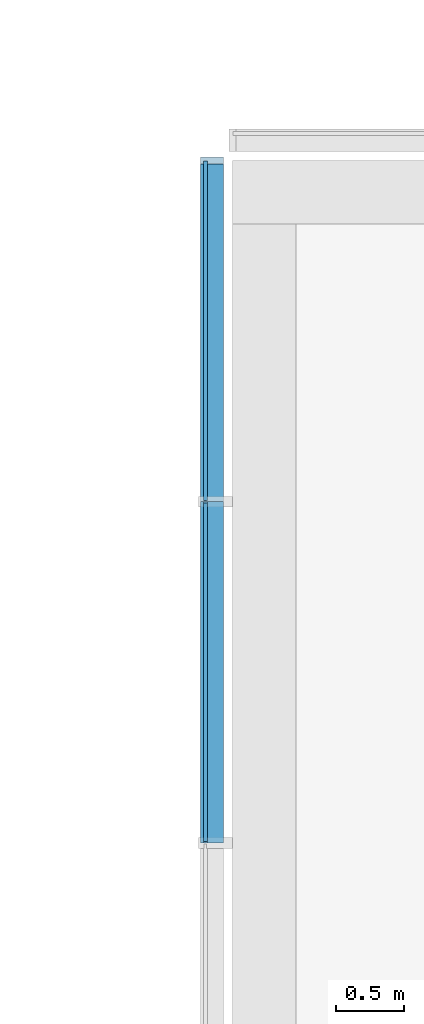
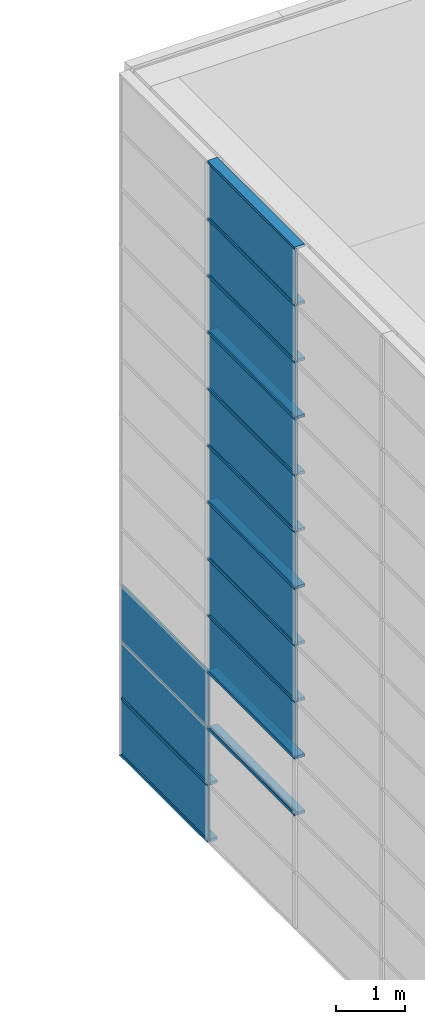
# One storey, part 37 of 105: 28 building element parts, 4 elements without a shape of their own.
"""IFC4 building model written with IfcOpenShell, lengths in millimetres."""

from ifc_helpers import new_model, entity, si_unit, converted_unit, derived_unit, direction, frame, origin_with_axes, place, context, subcontext, project, spatial, triangles, material, element, aggregate, save


model = new_model("IFC4")

# Units and contexts
model_context = context("Model", 3, precision=1e-05, world=origin_with_axes(), true_north=direction((0.0, 1.0)))
body_context = subcontext(model_context, "Body", "Model", "MODEL_VIEW")
ifc_project = project(units=[si_unit("LENGTHUNIT", "METRE", prefix="MILLI"), si_unit("AREAUNIT", "SQUARE_METRE"), si_unit("VOLUMEUNIT", "CUBIC_METRE"), converted_unit("PLANEANGLEUNIT", "DEGREE", entity("IfcLengthMeasure", 0.017453), si_unit("PLANEANGLEUNIT", "RADIAN"), dimensions=[0, 0, 0, 0, 0, 0, 0]), si_unit("SOLIDANGLEUNIT", "STERADIAN"), si_unit("MASSUNIT", "GRAM"), si_unit("TIMEUNIT", "SECOND"), si_unit("THERMODYNAMICTEMPERATUREUNIT", "DEGREE_CELSIUS"), si_unit("LUMINOUSINTENSITYUNIT", "LUMEN"), si_unit("POWERUNIT", "WATT"), derived_unit("THERMALTRANSMITTANCEUNIT", [(si_unit("POWERUNIT", "WATT"), 1), (si_unit("THERMODYNAMICTEMPERATUREUNIT", "KELVIN"), -1), (si_unit("AREAUNIT", "SQUARE_METRE"), -1)])], contexts=[model_context])

# Site, building, storey
site_placement = place(None, origin_with_axes())
site = spatial("IfcSite", under=ifc_project, at=site_placement, Name="Default Site", CompositionType="ELEMENT")
building_placement = place(site_placement, origin_with_axes())
building = spatial("IfcBuilding", under=site, at=building_placement, Name="Default Building", CompositionType="ELEMENT")
storey_placement = place(building_placement, origin_with_axes())
storey = spatial("IfcBuildingStorey", under=building, at=storey_placement, Name="OG - Story", CompositionType="ELEMENT", Elevation=0.0)

# Curtain wall, building element parts
curtain_wall_1_placement = place(storey_placement, origin_with_axes())
curtain_wall_1 = element("IfcCurtainWall", 1, at=curtain_wall_1_placement, inside=storey, Name="Fassade-003", PredefinedType="NOTDEFINED")
ifc_material_1 = material(Name="Normalglas")
building_element_part_1_placement = place(curtain_wall_1_placement, frame((31551.391327, -51326.104944, 0.0), z_axis=(0.0, 0.0, 1.0), x_axis=(1.0, 0.0, 0.0)))
building_element_part_1 = element("IfcBuildingElementPart", 2, at=building_element_part_1_placement, material=ifc_material_1, Name="Normalglas", PredefinedType="NOTDEFINED", context=body_context, shape_type="Tessellation", body=[
    triangles([(15.0, 46731.842, 995.0), (-14.999, 46731.842, 995.0), (-14.999, 44220.526, 995.0), (15.0, 44220.526, 995.0), (15.0, 46731.842, 5.0), (-14.999, 46731.842, 5.0), (-14.999, 44220.526, 5.0), (15.0, 44220.526, 5.0)], [[1, 2, 3], [1, 3, 4], [5, 6, 2], [5, 2, 1], [2, 6, 7], [2, 7, 3], [4, 3, 7], [4, 7, 8], [1, 4, 8], [1, 8, 5], [8, 7, 6], [8, 6, 5]], closed=False),
])
building_element_part_2_placement = place(curtain_wall_1_placement, frame((31551.391327, -51326.104944, 0.0), z_axis=(0.0, 0.0, 1.0), x_axis=(1.0, 0.0, 0.0)))
building_element_part_2 = element("IfcBuildingElementPart", 3, at=building_element_part_2_placement, material=ifc_material_1, Name="Normalglas", PredefinedType="NOTDEFINED", context=body_context, shape_type="Tessellation", body=[
    triangles([(15.0, 46731.842, 1995.0), (-14.999, 46731.842, 1995.0), (-14.999, 44220.526, 1995.0), (15.0, 44220.526, 1995.0), (15.0, 46731.842, 1005.0), (-14.999, 46731.842, 1005.0), (-14.999, 44220.526, 1005.0), (15.0, 44220.526, 1005.0)], [[1, 2, 3], [1, 3, 4], [5, 6, 2], [5, 2, 1], [2, 6, 7], [2, 7, 3], [4, 3, 7], [4, 7, 8], [1, 4, 8], [1, 8, 5], [8, 7, 6], [8, 6, 5]], closed=False),
])
building_element_part_3_placement = place(curtain_wall_1_placement, frame((31551.391327, -51326.104944, 0.0), z_axis=(0.0, 0.0, 1.0), x_axis=(1.0, 0.0, 0.0)))
building_element_part_3 = element("IfcBuildingElementPart", 4, at=building_element_part_3_placement, material=ifc_material_1, Name="Normalglas", PredefinedType="NOTDEFINED", context=body_context, shape_type="Tessellation", body=[
    triangles([(15.0, 46731.842, 2995.0), (-14.999, 46731.842, 2995.0), (-14.999, 44220.526, 2995.0), (15.0, 44220.526, 2995.0), (15.0, 46731.842, 2005.0), (-14.999, 46731.842, 2005.0), (-14.999, 44220.526, 2005.0), (15.0, 44220.526, 2005.0)], [[1, 2, 3], [1, 3, 4], [5, 6, 2], [5, 2, 1], [2, 6, 7], [2, 7, 3], [4, 3, 7], [4, 7, 8], [1, 4, 8], [1, 8, 5], [8, 7, 6], [8, 6, 5]], closed=False),
])
ifc_material_2 = material(Name="Blech")
building_element_part_4_placement = place(curtain_wall_1_placement, frame((31551.391327, -51326.104944, 0.0), z_axis=(0.0, 0.0, 1.0), x_axis=(1.0, 0.0, 0.0)))
building_element_part_4 = element("IfcBuildingElementPart", 5, at=building_element_part_4_placement, material=ifc_material_2, Name="Blech", PredefinedType="NOTDEFINED", context=body_context, shape_type="Tessellation", body=[
    triangles([(15.0, 46711.842, 25.0), (133.0, 46711.842, 25.0), (15.0, 46731.842, 5.0), (133.0, 46761.842, -24.999), (-14.999, 46731.842, 5.0), (-34.999, 46761.842, -24.999), (-34.999, 46711.842, 25.0), (-14.999, 46711.842, 25.0), (15.0, 44210.526, 5.0), (15.0, 44210.526, 25.0), (133.0, 44210.526, 25.0), (133.0, 44210.526, -24.999), (-34.999, 44210.526, -24.999), (-34.999, 44210.526, 25.0), (-14.999, 44210.526, 25.0), (-14.999, 44210.526, 5.0)], [[1, 2, 3], [3, 2, 4], [3, 4, 5], [5, 4, 6], [5, 6, 7], [5, 7, 8], [3, 9, 10], [3, 10, 1], [10, 11, 2], [10, 2, 1], [11, 12, 4], [11, 4, 2], [12, 13, 6], [12, 6, 4], [13, 14, 7], [13, 7, 6], [8, 7, 14], [8, 14, 15], [15, 16, 5], [15, 5, 8], [5, 16, 9], [5, 9, 3], [16, 9, 12], [16, 12, 13], [16, 13, 14], [16, 14, 15], [11, 12, 9], [11, 9, 10]], closed=False),
])
building_element_part_5_placement = place(curtain_wall_1_placement, frame((31551.391327, -51326.104944, 0.0), z_axis=(0.0, 0.0, 1.0), x_axis=(1.0, 0.0, 0.0)))
building_element_part_5 = element("IfcBuildingElementPart", 6, at=building_element_part_5_placement, material=ifc_material_2, Name="Blech", PredefinedType="NOTDEFINED", context=body_context, shape_type="Tessellation", body=[
    triangles([(-14.999, 46711.842, 1025.0), (-34.999, 46711.842, 1025.0), (-14.999, 46711.842, 1005.0), (-14.999, 46711.842, 995.0), (15.0, 46711.842, 1005.0), (133.0, 46711.842, 1025.0), (15.0, 46711.842, 1025.0), (-34.999, 46711.842, 975.0), (-14.999, 46711.842, 975.0), (15.0, 46711.842, 995.0), (15.0, 46711.842, 975.0), (133.0, 46711.842, 975.0), (15.0, 44210.526, 995.0), (-14.999, 44210.526, 995.0), (-14.999, 44210.526, 975.0), (-34.999, 44210.526, 975.0), (-34.999, 44210.526, 1025.0), (-14.999, 44210.526, 1025.0), (-14.999, 44210.526, 1005.0), (15.0, 44210.526, 1005.0), (15.0, 44210.526, 1025.0), (133.0, 44210.526, 1025.0), (133.0, 44210.526, 975.0), (15.0, 44210.526, 975.0)], [[1, 2, 3], [3, 2, 4], [3, 4, 5], [5, 4, 6], [5, 6, 7], [8, 9, 4], [8, 4, 2], [6, 4, 10], [6, 10, 11], [6, 11, 12], [10, 13, 14], [10, 14, 4], [4, 14, 15], [4, 15, 9], [15, 16, 8], [15, 8, 9], [8, 16, 17], [8, 17, 2], [18, 1, 2], [18, 2, 17], [1, 18, 19], [1, 19, 3], [5, 3, 19], [5, 19, 20], [7, 5, 20], [7, 20, 21], [7, 21, 22], [7, 22, 6], [6, 22, 23], [6, 23, 12], [11, 12, 23], [11, 23, 24], [11, 24, 13], [11, 13, 10], [21, 22, 20], [20, 22, 13], [20, 13, 19], [19, 13, 14], [19, 14, 17], [17, 14, 15], [17, 15, 16], [23, 24, 13], [23, 13, 22], [19, 17, 18]], closed=False),
])
building_element_part_6_placement = place(curtain_wall_1_placement, frame((31551.391327, -51326.104944, 0.0), z_axis=(0.0, 0.0, 1.0), x_axis=(1.0, 0.0, 0.0)))
building_element_part_6 = element("IfcBuildingElementPart", 7, at=building_element_part_6_placement, material=ifc_material_2, Name="Blech", PredefinedType="NOTDEFINED", context=body_context, shape_type="Tessellation", body=[
    triangles([(-14.999, 44210.526, 2025.0), (-34.999, 44210.526, 2025.0), (-14.999, 44210.526, 2005.0), (-14.999, 44210.526, 1995.0), (15.0, 44210.526, 2005.0), (133.0, 44210.526, 2025.0), (15.0, 44210.526, 2025.0), (-34.999, 44210.526, 1975.0), (-14.999, 44210.526, 1975.0), (15.0, 44210.526, 1995.0), (15.0, 44210.526, 1975.0), (133.0, 44210.526, 1975.0), (15.0, 41684.211, 1995.0), (-14.999, 41684.211, 1995.0), (-14.999, 41684.211, 1975.0), (-34.999, 41684.211, 1975.0), (-34.999, 41684.211, 2025.0), (-14.999, 41684.211, 2025.0), (-14.999, 41684.211, 2005.0), (15.0, 41684.211, 2005.0), (15.0, 41684.211, 2025.0), (133.0, 41684.211, 2025.0), (133.0, 41684.211, 1975.0), (15.0, 41684.211, 1975.0)], [[1, 2, 3], [3, 2, 4], [3, 4, 5], [5, 4, 6], [5, 6, 7], [8, 9, 4], [8, 4, 2], [6, 4, 10], [6, 10, 11], [6, 11, 12], [10, 13, 14], [10, 14, 4], [4, 14, 15], [4, 15, 9], [15, 16, 8], [15, 8, 9], [8, 16, 17], [8, 17, 2], [18, 1, 2], [18, 2, 17], [1, 18, 19], [1, 19, 3], [5, 3, 19], [5, 19, 20], [7, 5, 20], [7, 20, 21], [7, 21, 22], [7, 22, 6], [6, 22, 23], [6, 23, 12], [11, 12, 23], [11, 23, 24], [11, 24, 13], [11, 13, 10], [21, 22, 20], [20, 22, 13], [20, 13, 19], [19, 13, 14], [19, 14, 17], [17, 14, 15], [17, 15, 16], [23, 24, 13], [23, 13, 22], [19, 17, 18]], closed=False),
])
building_element_part_7_placement = place(curtain_wall_1_placement, frame((31551.391327, -51326.104944, 0.0), z_axis=(0.0, 0.0, 1.0), x_axis=(1.0, 0.0, 0.0)))
building_element_part_7 = element("IfcBuildingElementPart", 8, at=building_element_part_7_placement, material=ifc_material_2, Name="Blech", PredefinedType="NOTDEFINED", context=body_context, shape_type="Tessellation", body=[
    triangles([(-14.999, 44210.526, 2995.0), (15.0, 44210.526, 2995.0), (133.0, 44210.526, 3025.0), (-34.999, 44210.526, 3025.0), (-34.999, 44210.526, 2975.0), (-14.999, 44210.526, 2975.0), (15.0, 44210.526, 2975.0), (133.0, 44210.526, 2975.0), (15.0, 41684.211, 2995.0), (-14.999, 41684.211, 2995.0), (-14.999, 41684.211, 2975.0), (-34.999, 41684.211, 2975.0), (-34.999, 41684.211, 3025.0), (133.0, 41684.211, 3025.0), (133.0, 41684.211, 2975.0), (15.0, 41684.211, 2975.0)], [[1, 2, 3], [1, 3, 4], [1, 4, 5], [1, 5, 6], [7, 8, 3], [7, 3, 2], [1, 2, 9], [1, 9, 10], [11, 6, 1], [11, 1, 10], [6, 11, 12], [6, 12, 5], [13, 4, 5], [13, 5, 12], [14, 3, 4], [14, 4, 13], [15, 8, 3], [15, 3, 14], [16, 7, 8], [16, 8, 15], [2, 7, 16], [2, 16, 9], [10, 9, 14], [10, 14, 13], [10, 13, 12], [10, 12, 11], [16, 15, 14], [16, 14, 9]], closed=False),
])
aggregate(curtain_wall_1, [building_element_part_1, building_element_part_2, building_element_part_3, building_element_part_4, building_element_part_5, building_element_part_6, building_element_part_7])

curtain_wall_2_placement = place(storey_placement, origin_with_axes())
curtain_wall_2 = element("IfcCurtainWall", 9, at=curtain_wall_2_placement, inside=storey, Name="Fassade-003", PredefinedType="NOTDEFINED")
building_element_part_8_placement = place(curtain_wall_2_placement, frame((31551.391327, -51326.104944, 3000.0), z_axis=(0.0, 0.0, 1.0), x_axis=(1.0, 0.0, 0.0)))
building_element_part_8 = element("IfcBuildingElementPart", 10, at=building_element_part_8_placement, material=ifc_material_1, Name="Normalglas", PredefinedType="NOTDEFINED", context=body_context, shape_type="Tessellation", body=[
    triangles([(15.0, 44200.526, 995.0), (-14.999, 44200.526, 995.0), (-14.999, 41694.211, 995.0), (15.0, 41694.211, 995.0), (15.0, 44200.526, 5.0), (-14.999, 44200.526, 5.0), (-14.999, 41694.211, 5.0), (15.0, 41694.211, 5.0)], [[1, 2, 3], [1, 3, 4], [5, 6, 2], [5, 2, 1], [2, 6, 7], [2, 7, 3], [4, 3, 7], [4, 7, 8], [1, 4, 8], [1, 8, 5], [8, 7, 6], [8, 6, 5]], closed=False),
])
building_element_part_9_placement = place(curtain_wall_2_placement, frame((31551.391327, -51326.104944, 3000.0), z_axis=(0.0, 0.0, 1.0), x_axis=(1.0, 0.0, 0.0)))
building_element_part_9 = element("IfcBuildingElementPart", 11, at=building_element_part_9_placement, material=ifc_material_1, Name="Normalglas", PredefinedType="NOTDEFINED", context=body_context, shape_type="Tessellation", body=[
    triangles([(15.0, 44200.526, 1995.0), (-14.999, 44200.526, 1995.0), (-14.999, 41694.211, 1995.0), (15.0, 41694.211, 1995.0), (15.0, 44200.526, 1005.0), (-14.999, 44200.526, 1005.0), (-14.999, 41694.211, 1005.0), (15.0, 41694.211, 1005.0)], [[1, 2, 3], [1, 3, 4], [5, 6, 2], [5, 2, 1], [2, 6, 7], [2, 7, 3], [4, 3, 7], [4, 7, 8], [1, 4, 8], [1, 8, 5], [8, 7, 6], [8, 6, 5]], closed=False),
])
building_element_part_10_placement = place(curtain_wall_2_placement, frame((31551.391327, -51326.104944, 3000.0), z_axis=(0.0, 0.0, 1.0), x_axis=(1.0, 0.0, 0.0)))
building_element_part_10 = element("IfcBuildingElementPart", 12, at=building_element_part_10_placement, material=ifc_material_1, Name="Normalglas", PredefinedType="NOTDEFINED", context=body_context, shape_type="Tessellation", body=[
    triangles([(15.0, 44200.526, 2995.0), (-14.999, 44200.526, 2995.0), (-14.999, 41694.211, 2995.0), (15.0, 41694.211, 2995.0), (15.0, 44200.526, 2005.0), (-14.999, 44200.526, 2005.0), (-14.999, 41694.211, 2005.0), (15.0, 41694.211, 2005.0)], [[1, 2, 3], [1, 3, 4], [5, 6, 2], [5, 2, 1], [2, 6, 7], [2, 7, 3], [4, 3, 7], [4, 7, 8], [1, 4, 8], [1, 8, 5], [8, 7, 6], [8, 6, 5]], closed=False),
])
building_element_part_11_placement = place(curtain_wall_2_placement, frame((31551.391327, -51326.104944, 3000.0), z_axis=(0.0, 0.0, 1.0), x_axis=(1.0, 0.0, 0.0)))
building_element_part_11 = element("IfcBuildingElementPart", 13, at=building_element_part_11_placement, material=ifc_material_2, Name="Blech", PredefinedType="NOTDEFINED", context=body_context, shape_type="Tessellation", body=[
    triangles([(15.0, 44210.526, 25.0), (133.0, 44210.526, 25.0), (15.0, 44210.526, 5.0), (133.0, 44210.526, -24.999), (-14.999, 44210.526, 5.0), (-34.999, 44210.526, -24.999), (-34.999, 44210.526, 25.0), (-14.999, 44210.526, 25.0), (15.0, 41684.211, 5.0), (15.0, 41684.211, 25.0), (133.0, 41684.211, 25.0), (133.0, 41684.211, -24.999), (-34.999, 41684.211, -24.999), (-34.999, 41684.211, 25.0), (-14.999, 41684.211, 25.0), (-14.999, 41684.211, 5.0)], [[1, 2, 3], [3, 2, 4], [3, 4, 5], [5, 4, 6], [5, 6, 7], [5, 7, 8], [3, 9, 10], [3, 10, 1], [10, 11, 2], [10, 2, 1], [11, 12, 4], [11, 4, 2], [12, 13, 6], [12, 6, 4], [13, 14, 7], [13, 7, 6], [8, 7, 14], [8, 14, 15], [15, 16, 5], [15, 5, 8], [5, 16, 9], [5, 9, 3], [16, 9, 12], [16, 12, 13], [16, 13, 14], [16, 14, 15], [11, 12, 9], [11, 9, 10]], closed=False),
])
building_element_part_12_placement = place(curtain_wall_2_placement, frame((31551.391327, -51326.104944, 3000.0), z_axis=(0.0, 0.0, 1.0), x_axis=(1.0, 0.0, 0.0)))
building_element_part_12 = element("IfcBuildingElementPart", 14, at=building_element_part_12_placement, material=ifc_material_2, Name="Blech", PredefinedType="NOTDEFINED", context=body_context, shape_type="Tessellation", body=[
    triangles([(-14.999, 44210.526, 1025.0), (-34.999, 44210.526, 1025.0), (-14.999, 44210.526, 1005.0), (-14.999, 44210.526, 995.0), (15.0, 44210.526, 1005.0), (133.0, 44210.526, 1025.0), (15.0, 44210.526, 1025.0), (-34.999, 44210.526, 975.0), (-14.999, 44210.526, 975.0), (15.0, 44210.526, 995.0), (15.0, 44210.526, 975.0), (133.0, 44210.526, 975.0), (15.0, 41684.211, 995.0), (-14.999, 41684.211, 995.0), (-14.999, 41684.211, 975.0), (-34.999, 41684.211, 975.0), (-34.999, 41684.211, 1025.0), (-14.999, 41684.211, 1025.0), (-14.999, 41684.211, 1005.0), (15.0, 41684.211, 1005.0), (15.0, 41684.211, 1025.0), (133.0, 41684.211, 1025.0), (133.0, 41684.211, 975.0), (15.0, 41684.211, 975.0)], [[1, 2, 3], [3, 2, 4], [3, 4, 5], [5, 4, 6], [5, 6, 7], [8, 9, 4], [8, 4, 2], [6, 4, 10], [6, 10, 11], [6, 11, 12], [10, 13, 14], [10, 14, 4], [4, 14, 15], [4, 15, 9], [15, 16, 8], [15, 8, 9], [8, 16, 17], [8, 17, 2], [18, 1, 2], [18, 2, 17], [1, 18, 19], [1, 19, 3], [5, 3, 19], [5, 19, 20], [7, 5, 20], [7, 20, 21], [7, 21, 22], [7, 22, 6], [6, 22, 23], [6, 23, 12], [11, 12, 23], [11, 23, 24], [11, 24, 13], [11, 13, 10], [21, 22, 20], [20, 22, 13], [20, 13, 19], [19, 13, 14], [19, 14, 17], [17, 14, 15], [17, 15, 16], [23, 24, 13], [23, 13, 22], [19, 17, 18]], closed=False),
])
building_element_part_13_placement = place(curtain_wall_2_placement, frame((31551.391327, -51326.104944, 3000.0), z_axis=(0.0, 0.0, 1.0), x_axis=(1.0, 0.0, 0.0)))
building_element_part_13 = element("IfcBuildingElementPart", 15, at=building_element_part_13_placement, material=ifc_material_2, Name="Blech", PredefinedType="NOTDEFINED", context=body_context, shape_type="Tessellation", body=[
    triangles([(-14.999, 44210.526, 2025.0), (-34.999, 44210.526, 2025.0), (-14.999, 44210.526, 2005.0), (-14.999, 44210.526, 1995.0), (15.0, 44210.526, 2005.0), (133.0, 44210.526, 2025.0), (15.0, 44210.526, 2025.0), (-34.999, 44210.526, 1975.0), (-14.999, 44210.526, 1975.0), (15.0, 44210.526, 1995.0), (15.0, 44210.526, 1975.0), (133.0, 44210.526, 1975.0), (15.0, 41684.211, 1995.0), (-14.999, 41684.211, 1995.0), (-14.999, 41684.211, 1975.0), (-34.999, 41684.211, 1975.0), (-34.999, 41684.211, 2025.0), (-14.999, 41684.211, 2025.0), (-14.999, 41684.211, 2005.0), (15.0, 41684.211, 2005.0), (15.0, 41684.211, 2025.0), (133.0, 41684.211, 2025.0), (133.0, 41684.211, 1975.0), (15.0, 41684.211, 1975.0)], [[1, 2, 3], [3, 2, 4], [3, 4, 5], [5, 4, 6], [5, 6, 7], [8, 9, 4], [8, 4, 2], [6, 4, 10], [6, 10, 11], [6, 11, 12], [10, 13, 14], [10, 14, 4], [4, 14, 15], [4, 15, 9], [15, 16, 8], [15, 8, 9], [8, 16, 17], [8, 17, 2], [18, 1, 2], [18, 2, 17], [1, 18, 19], [1, 19, 3], [5, 3, 19], [5, 19, 20], [7, 5, 20], [7, 20, 21], [7, 21, 22], [7, 22, 6], [6, 22, 23], [6, 23, 12], [11, 12, 23], [11, 23, 24], [11, 24, 13], [11, 13, 10], [21, 22, 20], [20, 22, 13], [20, 13, 19], [19, 13, 14], [19, 14, 17], [17, 14, 15], [17, 15, 16], [23, 24, 13], [23, 13, 22], [19, 17, 18]], closed=False),
])
building_element_part_14_placement = place(curtain_wall_2_placement, frame((31551.391327, -51326.104944, 3000.0), z_axis=(0.0, 0.0, 1.0), x_axis=(1.0, 0.0, 0.0)))
building_element_part_14 = element("IfcBuildingElementPart", 16, at=building_element_part_14_placement, material=ifc_material_2, Name="Blech", PredefinedType="NOTDEFINED", context=body_context, shape_type="Tessellation", body=[
    triangles([(-14.999, 44210.526, 2995.0), (15.0, 44210.526, 2995.0), (133.0, 44210.526, 3025.0), (-34.999, 44210.526, 3025.0), (-34.999, 44210.526, 2975.0), (-14.999, 44210.526, 2975.0), (15.0, 44210.526, 2975.0), (133.0, 44210.526, 2975.0), (15.0, 41684.211, 2995.0), (-14.999, 41684.211, 2995.0), (-14.999, 41684.211, 2975.0), (-34.999, 41684.211, 2975.0), (-34.999, 41684.211, 3025.0), (133.0, 41684.211, 3025.0), (133.0, 41684.211, 2975.0), (15.0, 41684.211, 2975.0)], [[1, 2, 3], [1, 3, 4], [1, 4, 5], [1, 5, 6], [7, 8, 3], [7, 3, 2], [1, 2, 9], [1, 9, 10], [11, 6, 1], [11, 1, 10], [6, 11, 12], [6, 12, 5], [13, 4, 5], [13, 5, 12], [14, 3, 4], [14, 4, 13], [15, 8, 3], [15, 3, 14], [16, 7, 8], [16, 8, 15], [2, 7, 16], [2, 16, 9], [10, 9, 14], [10, 14, 13], [10, 13, 12], [10, 12, 11], [16, 15, 14], [16, 14, 9]], closed=False),
])
aggregate(curtain_wall_2, [building_element_part_8, building_element_part_9, building_element_part_10, building_element_part_11, building_element_part_12, building_element_part_13, building_element_part_14])

curtain_wall_3_placement = place(storey_placement, origin_with_axes())
curtain_wall_3 = element("IfcCurtainWall", 17, at=curtain_wall_3_placement, inside=storey, Name="Fassade-003", PredefinedType="NOTDEFINED")
building_element_part_15_placement = place(curtain_wall_3_placement, frame((31551.391327, -51326.104944, 6000.0), z_axis=(0.0, 0.0, 1.0), x_axis=(1.0, 0.0, 0.0)))
building_element_part_15 = element("IfcBuildingElementPart", 18, at=building_element_part_15_placement, material=ifc_material_1, Name="Normalglas", PredefinedType="NOTDEFINED", context=body_context, shape_type="Tessellation", body=[
    triangles([(15.0, 44200.526, 995.0), (-14.999, 44200.526, 995.0), (-14.999, 41694.211, 995.0), (15.0, 41694.211, 995.0), (15.0, 44200.526, 5.0), (-14.999, 44200.526, 5.0), (-14.999, 41694.211, 5.0), (15.0, 41694.211, 5.0)], [[1, 2, 3], [1, 3, 4], [5, 6, 2], [5, 2, 1], [2, 6, 7], [2, 7, 3], [4, 3, 7], [4, 7, 8], [1, 4, 8], [1, 8, 5], [8, 7, 6], [8, 6, 5]], closed=False),
])
building_element_part_16_placement = place(curtain_wall_3_placement, frame((31551.391327, -51326.104944, 6000.0), z_axis=(0.0, 0.0, 1.0), x_axis=(1.0, 0.0, 0.0)))
building_element_part_16 = element("IfcBuildingElementPart", 19, at=building_element_part_16_placement, material=ifc_material_1, Name="Normalglas", PredefinedType="NOTDEFINED", context=body_context, shape_type="Tessellation", body=[
    triangles([(15.0, 44200.526, 1995.0), (-14.999, 44200.526, 1995.0), (-14.999, 41694.211, 1995.0), (15.0, 41694.211, 1995.0), (15.0, 44200.526, 1005.0), (-14.999, 44200.526, 1005.0), (-14.999, 41694.211, 1005.0), (15.0, 41694.211, 1005.0)], [[1, 2, 3], [1, 3, 4], [5, 6, 2], [5, 2, 1], [2, 6, 7], [2, 7, 3], [4, 3, 7], [4, 7, 8], [1, 4, 8], [1, 8, 5], [8, 7, 6], [8, 6, 5]], closed=False),
])
building_element_part_17_placement = place(curtain_wall_3_placement, frame((31551.391327, -51326.104944, 6000.0), z_axis=(0.0, 0.0, 1.0), x_axis=(1.0, 0.0, 0.0)))
building_element_part_17 = element("IfcBuildingElementPart", 20, at=building_element_part_17_placement, material=ifc_material_1, Name="Normalglas", PredefinedType="NOTDEFINED", context=body_context, shape_type="Tessellation", body=[
    triangles([(15.0, 44200.526, 2995.0), (-14.999, 44200.526, 2995.0), (-14.999, 41694.211, 2995.0), (15.0, 41694.211, 2995.0), (15.0, 44200.526, 2005.0), (-14.999, 44200.526, 2005.0), (-14.999, 41694.211, 2005.0), (15.0, 41694.211, 2005.0)], [[1, 2, 3], [1, 3, 4], [5, 6, 2], [5, 2, 1], [2, 6, 7], [2, 7, 3], [4, 3, 7], [4, 7, 8], [1, 4, 8], [1, 8, 5], [8, 7, 6], [8, 6, 5]], closed=False),
])
building_element_part_18_placement = place(curtain_wall_3_placement, frame((31551.391327, -51326.104944, 6000.0), z_axis=(0.0, 0.0, 1.0), x_axis=(1.0, 0.0, 0.0)))
building_element_part_18 = element("IfcBuildingElementPart", 21, at=building_element_part_18_placement, material=ifc_material_2, Name="Blech", PredefinedType="NOTDEFINED", context=body_context, shape_type="Tessellation", body=[
    triangles([(15.0, 44210.526, 25.0), (133.0, 44210.526, 25.0), (15.0, 44210.526, 5.0), (133.0, 44210.526, -24.999), (-14.999, 44210.526, 5.0), (-34.999, 44210.526, -24.999), (-34.999, 44210.526, 25.0), (-14.999, 44210.526, 25.0), (15.0, 41684.211, 5.0), (15.0, 41684.211, 25.0), (133.0, 41684.211, 25.0), (133.0, 41684.211, -24.999), (-34.999, 41684.211, -24.999), (-34.999, 41684.211, 25.0), (-14.999, 41684.211, 25.0), (-14.999, 41684.211, 5.0)], [[1, 2, 3], [3, 2, 4], [3, 4, 5], [5, 4, 6], [5, 6, 7], [5, 7, 8], [3, 9, 10], [3, 10, 1], [10, 11, 2], [10, 2, 1], [11, 12, 4], [11, 4, 2], [12, 13, 6], [12, 6, 4], [13, 14, 7], [13, 7, 6], [8, 7, 14], [8, 14, 15], [15, 16, 5], [15, 5, 8], [5, 16, 9], [5, 9, 3], [16, 9, 12], [16, 12, 13], [16, 13, 14], [16, 14, 15], [11, 12, 9], [11, 9, 10]], closed=False),
])
building_element_part_19_placement = place(curtain_wall_3_placement, frame((31551.391327, -51326.104944, 6000.0), z_axis=(0.0, 0.0, 1.0), x_axis=(1.0, 0.0, 0.0)))
building_element_part_19 = element("IfcBuildingElementPart", 22, at=building_element_part_19_placement, material=ifc_material_2, Name="Blech", PredefinedType="NOTDEFINED", context=body_context, shape_type="Tessellation", body=[
    triangles([(-14.999, 44210.526, 1025.0), (-34.999, 44210.526, 1025.0), (-14.999, 44210.526, 1005.0), (-14.999, 44210.526, 995.0), (15.0, 44210.526, 1005.0), (133.0, 44210.526, 1025.0), (15.0, 44210.526, 1025.0), (-34.999, 44210.526, 975.0), (-14.999, 44210.526, 975.0), (15.0, 44210.526, 995.0), (15.0, 44210.526, 975.0), (133.0, 44210.526, 975.0), (15.0, 41684.211, 995.0), (-14.999, 41684.211, 995.0), (-14.999, 41684.211, 975.0), (-34.999, 41684.211, 975.0), (-34.999, 41684.211, 1025.0), (-14.999, 41684.211, 1025.0), (-14.999, 41684.211, 1005.0), (15.0, 41684.211, 1005.0), (15.0, 41684.211, 1025.0), (133.0, 41684.211, 1025.0), (133.0, 41684.211, 975.0), (15.0, 41684.211, 975.0)], [[1, 2, 3], [3, 2, 4], [3, 4, 5], [5, 4, 6], [5, 6, 7], [8, 9, 4], [8, 4, 2], [6, 4, 10], [6, 10, 11], [6, 11, 12], [10, 13, 14], [10, 14, 4], [4, 14, 15], [4, 15, 9], [15, 16, 8], [15, 8, 9], [8, 16, 17], [8, 17, 2], [18, 1, 2], [18, 2, 17], [1, 18, 19], [1, 19, 3], [5, 3, 19], [5, 19, 20], [7, 5, 20], [7, 20, 21], [7, 21, 22], [7, 22, 6], [6, 22, 23], [6, 23, 12], [11, 12, 23], [11, 23, 24], [11, 24, 13], [11, 13, 10], [21, 22, 20], [20, 22, 13], [20, 13, 19], [19, 13, 14], [19, 14, 17], [17, 14, 15], [17, 15, 16], [23, 24, 13], [23, 13, 22], [19, 17, 18]], closed=False),
])
building_element_part_20_placement = place(curtain_wall_3_placement, frame((31551.391327, -51326.104944, 6000.0), z_axis=(0.0, 0.0, 1.0), x_axis=(1.0, 0.0, 0.0)))
building_element_part_20 = element("IfcBuildingElementPart", 23, at=building_element_part_20_placement, material=ifc_material_2, Name="Blech", PredefinedType="NOTDEFINED", context=body_context, shape_type="Tessellation", body=[
    triangles([(-14.999, 44210.526, 2025.0), (-34.999, 44210.526, 2025.0), (-14.999, 44210.526, 2005.0), (-14.999, 44210.526, 1995.0), (15.0, 44210.526, 2005.0), (133.0, 44210.526, 2025.0), (15.0, 44210.526, 2025.0), (-34.999, 44210.526, 1975.0), (-14.999, 44210.526, 1975.0), (15.0, 44210.526, 1995.0), (15.0, 44210.526, 1975.0), (133.0, 44210.526, 1975.0), (15.0, 41684.211, 1995.0), (-14.999, 41684.211, 1995.0), (-14.999, 41684.211, 1975.0), (-34.999, 41684.211, 1975.0), (-34.999, 41684.211, 2025.0), (-14.999, 41684.211, 2025.0), (-14.999, 41684.211, 2005.0), (15.0, 41684.211, 2005.0), (15.0, 41684.211, 2025.0), (133.0, 41684.211, 2025.0), (133.0, 41684.211, 1975.0), (15.0, 41684.211, 1975.0)], [[1, 2, 3], [3, 2, 4], [3, 4, 5], [5, 4, 6], [5, 6, 7], [8, 9, 4], [8, 4, 2], [6, 4, 10], [6, 10, 11], [6, 11, 12], [10, 13, 14], [10, 14, 4], [4, 14, 15], [4, 15, 9], [15, 16, 8], [15, 8, 9], [8, 16, 17], [8, 17, 2], [18, 1, 2], [18, 2, 17], [1, 18, 19], [1, 19, 3], [5, 3, 19], [5, 19, 20], [7, 5, 20], [7, 20, 21], [7, 21, 22], [7, 22, 6], [6, 22, 23], [6, 23, 12], [11, 12, 23], [11, 23, 24], [11, 24, 13], [11, 13, 10], [21, 22, 20], [20, 22, 13], [20, 13, 19], [19, 13, 14], [19, 14, 17], [17, 14, 15], [17, 15, 16], [23, 24, 13], [23, 13, 22], [19, 17, 18]], closed=False),
])
building_element_part_21_placement = place(curtain_wall_3_placement, frame((31551.391327, -51326.104944, 6000.0), z_axis=(0.0, 0.0, 1.0), x_axis=(1.0, 0.0, 0.0)))
building_element_part_21 = element("IfcBuildingElementPart", 24, at=building_element_part_21_placement, material=ifc_material_2, Name="Blech", PredefinedType="NOTDEFINED", context=body_context, shape_type="Tessellation", body=[
    triangles([(-14.999, 44210.526, 2995.0), (15.0, 44210.526, 2995.0), (133.0, 44210.526, 3025.0), (-34.999, 44210.526, 3025.0), (-34.999, 44210.526, 2975.0), (-14.999, 44210.526, 2975.0), (15.0, 44210.526, 2975.0), (133.0, 44210.526, 2975.0), (15.0, 41684.211, 2995.0), (-14.999, 41684.211, 2995.0), (-14.999, 41684.211, 2975.0), (-34.999, 41684.211, 2975.0), (-34.999, 41684.211, 3025.0), (133.0, 41684.211, 3025.0), (133.0, 41684.211, 2975.0), (15.0, 41684.211, 2975.0)], [[1, 2, 3], [1, 3, 4], [1, 4, 5], [1, 5, 6], [7, 8, 3], [7, 3, 2], [1, 2, 9], [1, 9, 10], [11, 6, 1], [11, 1, 10], [6, 11, 12], [6, 12, 5], [13, 4, 5], [13, 5, 12], [14, 3, 4], [14, 4, 13], [15, 8, 3], [15, 3, 14], [16, 7, 8], [16, 8, 15], [2, 7, 16], [2, 16, 9], [10, 9, 14], [10, 14, 13], [10, 13, 12], [10, 12, 11], [16, 15, 14], [16, 14, 9]], closed=False),
])
aggregate(curtain_wall_3, [building_element_part_15, building_element_part_16, building_element_part_17, building_element_part_18, building_element_part_19, building_element_part_20, building_element_part_21])

curtain_wall_4_placement = place(storey_placement, origin_with_axes())
curtain_wall_4 = element("IfcCurtainWall", 25, at=curtain_wall_4_placement, inside=storey, Name="Fassade-003", PredefinedType="NOTDEFINED")
building_element_part_22_placement = place(curtain_wall_4_placement, frame((31551.391327, -51326.104944, 9000.0), z_axis=(0.0, 0.0, 1.0), x_axis=(1.0, 0.0, 0.0)))
building_element_part_22 = element("IfcBuildingElementPart", 26, at=building_element_part_22_placement, material=ifc_material_1, Name="Normalglas", PredefinedType="NOTDEFINED", context=body_context, shape_type="Tessellation", body=[
    triangles([(15.0, 44200.526, 995.0), (-14.999, 44200.526, 995.0), (-14.999, 41694.211, 995.0), (15.0, 41694.211, 995.0), (15.0, 44200.526, 5.0), (-14.999, 44200.526, 5.0), (-14.999, 41694.211, 5.0), (15.0, 41694.211, 5.0)], [[1, 2, 3], [1, 3, 4], [5, 6, 2], [5, 2, 1], [2, 6, 7], [2, 7, 3], [4, 3, 7], [4, 7, 8], [1, 4, 8], [1, 8, 5], [8, 7, 6], [8, 6, 5]], closed=False),
])
building_element_part_23_placement = place(curtain_wall_4_placement, frame((31551.391327, -51326.104944, 9000.0), z_axis=(0.0, 0.0, 1.0), x_axis=(1.0, 0.0, 0.0)))
building_element_part_23 = element("IfcBuildingElementPart", 27, at=building_element_part_23_placement, material=ifc_material_1, Name="Normalglas", PredefinedType="NOTDEFINED", context=body_context, shape_type="Tessellation", body=[
    triangles([(15.0, 44200.526, 1995.0), (-14.999, 44200.526, 1995.0), (-14.999, 41694.211, 1995.0), (15.0, 41694.211, 1995.0), (15.0, 44200.526, 1005.0), (-14.999, 44200.526, 1005.0), (-14.999, 41694.211, 1005.0), (15.0, 41694.211, 1005.0)], [[1, 2, 3], [1, 3, 4], [5, 6, 2], [5, 2, 1], [2, 6, 7], [2, 7, 3], [4, 3, 7], [4, 7, 8], [1, 4, 8], [1, 8, 5], [8, 7, 6], [8, 6, 5]], closed=False),
])
building_element_part_24_placement = place(curtain_wall_4_placement, frame((31551.391327, -51326.104944, 9000.0), z_axis=(0.0, 0.0, 1.0), x_axis=(1.0, 0.0, 0.0)))
building_element_part_24 = element("IfcBuildingElementPart", 28, at=building_element_part_24_placement, material=ifc_material_1, Name="Normalglas", PredefinedType="NOTDEFINED", context=body_context, shape_type="Tessellation", body=[
    triangles([(15.0, 44200.526, 2995.0), (-14.999, 44200.526, 2995.0), (-14.999, 41694.211, 2995.0), (15.0, 41694.211, 2995.0), (15.0, 44200.526, 2005.0), (-14.999, 44200.526, 2005.0), (-14.999, 41694.211, 2005.0), (15.0, 41694.211, 2005.0)], [[1, 2, 3], [1, 3, 4], [5, 6, 2], [5, 2, 1], [2, 6, 7], [2, 7, 3], [4, 3, 7], [4, 7, 8], [1, 4, 8], [1, 8, 5], [8, 7, 6], [8, 6, 5]], closed=False),
])
building_element_part_25_placement = place(curtain_wall_4_placement, frame((31551.391327, -51326.104944, 9000.0), z_axis=(0.0, 0.0, 1.0), x_axis=(1.0, 0.0, 0.0)))
building_element_part_25 = element("IfcBuildingElementPart", 29, at=building_element_part_25_placement, material=ifc_material_2, Name="Blech", PredefinedType="NOTDEFINED", context=body_context, shape_type="Tessellation", body=[
    triangles([(15.0, 44210.526, 25.0), (133.0, 44210.526, 25.0), (15.0, 44210.526, 5.0), (133.0, 44210.526, -24.999), (-14.999, 44210.526, 5.0), (-34.999, 44210.526, -24.999), (-34.999, 44210.526, 25.0), (-14.999, 44210.526, 25.0), (15.0, 41684.211, 5.0), (15.0, 41684.211, 25.0), (133.0, 41684.211, 25.0), (133.0, 41684.211, -24.999), (-34.999, 41684.211, -24.999), (-34.999, 41684.211, 25.0), (-14.999, 41684.211, 25.0), (-14.999, 41684.211, 5.0)], [[1, 2, 3], [3, 2, 4], [3, 4, 5], [5, 4, 6], [5, 6, 7], [5, 7, 8], [3, 9, 10], [3, 10, 1], [10, 11, 2], [10, 2, 1], [11, 12, 4], [11, 4, 2], [12, 13, 6], [12, 6, 4], [13, 14, 7], [13, 7, 6], [8, 7, 14], [8, 14, 15], [15, 16, 5], [15, 5, 8], [5, 16, 9], [5, 9, 3], [16, 9, 12], [16, 12, 13], [16, 13, 14], [16, 14, 15], [11, 12, 9], [11, 9, 10]], closed=False),
])
building_element_part_26_placement = place(curtain_wall_4_placement, frame((31551.391327, -51326.104944, 9000.0), z_axis=(0.0, 0.0, 1.0), x_axis=(1.0, 0.0, 0.0)))
building_element_part_26 = element("IfcBuildingElementPart", 30, at=building_element_part_26_placement, material=ifc_material_2, Name="Blech", PredefinedType="NOTDEFINED", context=body_context, shape_type="Tessellation", body=[
    triangles([(-14.999, 44210.526, 1025.0), (-34.999, 44210.526, 1025.0), (-14.999, 44210.526, 1005.0), (-14.999, 44210.526, 995.0), (15.0, 44210.526, 1005.0), (133.0, 44210.526, 1025.0), (15.0, 44210.526, 1025.0), (-34.999, 44210.526, 975.0), (-14.999, 44210.526, 975.0), (15.0, 44210.526, 995.0), (15.0, 44210.526, 975.0), (133.0, 44210.526, 975.0), (15.0, 41684.211, 995.0), (-14.999, 41684.211, 995.0), (-14.999, 41684.211, 975.0), (-34.999, 41684.211, 975.0), (-34.999, 41684.211, 1025.0), (-14.999, 41684.211, 1025.0), (-14.999, 41684.211, 1005.0), (15.0, 41684.211, 1005.0), (15.0, 41684.211, 1025.0), (133.0, 41684.211, 1025.0), (133.0, 41684.211, 975.0), (15.0, 41684.211, 975.0)], [[1, 2, 3], [3, 2, 4], [3, 4, 5], [5, 4, 6], [5, 6, 7], [8, 9, 4], [8, 4, 2], [6, 4, 10], [6, 10, 11], [6, 11, 12], [10, 13, 14], [10, 14, 4], [4, 14, 15], [4, 15, 9], [15, 16, 8], [15, 8, 9], [8, 16, 17], [8, 17, 2], [18, 1, 2], [18, 2, 17], [1, 18, 19], [1, 19, 3], [5, 3, 19], [5, 19, 20], [7, 5, 20], [7, 20, 21], [7, 21, 22], [7, 22, 6], [6, 22, 23], [6, 23, 12], [11, 12, 23], [11, 23, 24], [11, 24, 13], [11, 13, 10], [21, 22, 20], [20, 22, 13], [20, 13, 19], [19, 13, 14], [19, 14, 17], [17, 14, 15], [17, 15, 16], [23, 24, 13], [23, 13, 22], [19, 17, 18]], closed=False),
])
building_element_part_27_placement = place(curtain_wall_4_placement, frame((31551.391327, -51326.104944, 9000.0), z_axis=(0.0, 0.0, 1.0), x_axis=(1.0, 0.0, 0.0)))
building_element_part_27 = element("IfcBuildingElementPart", 31, at=building_element_part_27_placement, material=ifc_material_2, Name="Blech", PredefinedType="NOTDEFINED", context=body_context, shape_type="Tessellation", body=[
    triangles([(-14.999, 44210.526, 2025.0), (-34.999, 44210.526, 2025.0), (-14.999, 44210.526, 2005.0), (-14.999, 44210.526, 1995.0), (15.0, 44210.526, 2005.0), (133.0, 44210.526, 2025.0), (15.0, 44210.526, 2025.0), (-34.999, 44210.526, 1975.0), (-14.999, 44210.526, 1975.0), (15.0, 44210.526, 1995.0), (15.0, 44210.526, 1975.0), (133.0, 44210.526, 1975.0), (15.0, 41684.211, 1995.0), (-14.999, 41684.211, 1995.0), (-14.999, 41684.211, 1975.0), (-34.999, 41684.211, 1975.0), (-34.999, 41684.211, 2025.0), (-14.999, 41684.211, 2025.0), (-14.999, 41684.211, 2005.0), (15.0, 41684.211, 2005.0), (15.0, 41684.211, 2025.0), (133.0, 41684.211, 2025.0), (133.0, 41684.211, 1975.0), (15.0, 41684.211, 1975.0)], [[1, 2, 3], [3, 2, 4], [3, 4, 5], [5, 4, 6], [5, 6, 7], [8, 9, 4], [8, 4, 2], [6, 4, 10], [6, 10, 11], [6, 11, 12], [10, 13, 14], [10, 14, 4], [4, 14, 15], [4, 15, 9], [15, 16, 8], [15, 8, 9], [8, 16, 17], [8, 17, 2], [18, 1, 2], [18, 2, 17], [1, 18, 19], [1, 19, 3], [5, 3, 19], [5, 19, 20], [7, 5, 20], [7, 20, 21], [7, 21, 22], [7, 22, 6], [6, 22, 23], [6, 23, 12], [11, 12, 23], [11, 23, 24], [11, 24, 13], [11, 13, 10], [21, 22, 20], [20, 22, 13], [20, 13, 19], [19, 13, 14], [19, 14, 17], [17, 14, 15], [17, 15, 16], [23, 24, 13], [23, 13, 22], [19, 17, 18]], closed=False),
])
building_element_part_28_placement = place(curtain_wall_4_placement, frame((31551.391327, -51326.104944, 9000.0), z_axis=(0.0, 0.0, 1.0), x_axis=(1.0, 0.0, 0.0)))
building_element_part_28 = element("IfcBuildingElementPart", 32, at=building_element_part_28_placement, material=ifc_material_2, Name="Blech", PredefinedType="NOTDEFINED", context=body_context, shape_type="Tessellation", body=[
    triangles([(-14.999, 44210.526, 2995.0), (15.0, 44210.526, 2995.0), (133.0, 44210.526, 3025.0), (-34.999, 44210.526, 3025.0), (-34.999, 44210.526, 2975.0), (-14.999, 44210.526, 2975.0), (15.0, 44210.526, 2975.0), (133.0, 44210.526, 2975.0), (15.0, 41684.211, 2995.0), (-14.999, 41684.211, 2995.0), (-14.999, 41684.211, 2975.0), (-34.999, 41684.211, 2975.0), (-34.999, 41684.211, 3025.0), (133.0, 41684.211, 3025.0), (133.0, 41684.211, 2975.0), (15.0, 41684.211, 2975.0)], [[1, 2, 3], [1, 3, 4], [1, 4, 5], [1, 5, 6], [7, 8, 3], [7, 3, 2], [1, 2, 9], [1, 9, 10], [11, 6, 1], [11, 1, 10], [6, 11, 12], [6, 12, 5], [13, 4, 5], [13, 5, 12], [14, 3, 4], [14, 4, 13], [15, 8, 3], [15, 3, 14], [16, 7, 8], [16, 8, 15], [2, 7, 16], [2, 16, 9], [10, 9, 14], [10, 14, 13], [10, 13, 12], [10, 12, 11], [16, 15, 14], [16, 14, 9]], closed=False),
])
aggregate(curtain_wall_4, [building_element_part_22, building_element_part_23, building_element_part_24, building_element_part_25, building_element_part_26, building_element_part_27, building_element_part_28])

save(model, "model.ifc")
